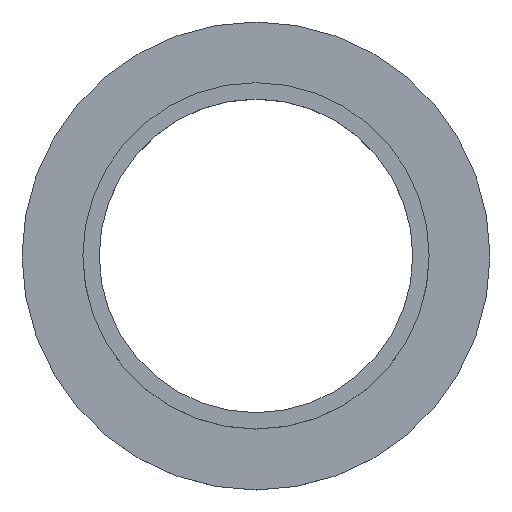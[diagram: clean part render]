
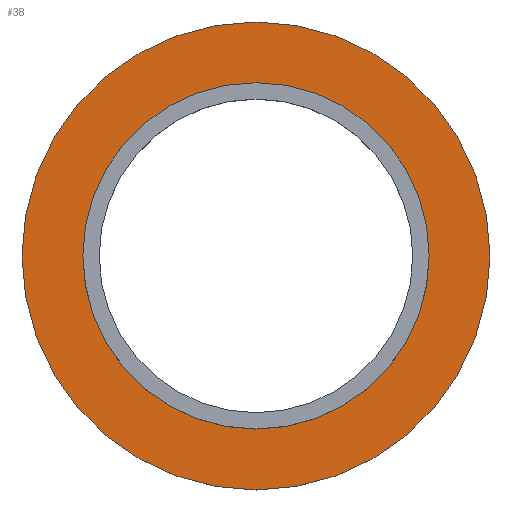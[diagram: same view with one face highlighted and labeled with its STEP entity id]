
A CAD part, top view. The second image highlights one B-rep face of the part: STEP entity #38.
In plain terms, the highlighted planar face has unit normal (0, 0, 1).
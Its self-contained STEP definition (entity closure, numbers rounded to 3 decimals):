
#8 = AXIS2_PLACEMENT_3D ( 'NONE', #251, #157, #158 ) ;
#13 = ORIENTED_EDGE ( 'NONE', *, *, #275, .F. ) ;
#14 = AXIS2_PLACEMENT_3D ( 'NONE', #31, #85, #63 ) ;
#17 = ORIENTED_EDGE ( 'NONE', *, *, #281, .F. ) ;
#23 = VERTEX_POINT ( 'NONE', #119 ) ;
#29 = CIRCLE ( 'NONE', #189, 7.4 ) ;
#31 = CARTESIAN_POINT ( 'NONE',  ( 0., 0., 0. ) ) ;
#38 = ADVANCED_FACE ( 'NONE', ( #170, #100 ), #270, .F. ) ;
#43 = ORIENTED_EDGE ( 'NONE', *, *, #151, .F. ) ;
#52 = AXIS2_PLACEMENT_3D ( 'NONE', #95, #226, #329 ) ;
#55 = DIRECTION ( 'NONE',  ( 1., 0., 0. ) ) ;
#63 = DIRECTION ( 'NONE',  ( -1., 0., 0. ) ) ;
#85 = DIRECTION ( 'NONE',  ( 0., 0., -1. ) ) ;
#88 = CARTESIAN_POINT ( 'NONE',  ( 7.4, 0., 0. ) ) ;
#95 = CARTESIAN_POINT ( 'NONE',  ( 0., 0., 0. ) ) ;
#100 = FACE_OUTER_BOUND ( 'NONE', #266, .T. ) ;
#118 = VERTEX_POINT ( 'NONE', #274 ) ;
#119 = CARTESIAN_POINT ( 'NONE',  ( -10., 0., 0. ) ) ;
#120 = CIRCLE ( 'NONE', #8, 10. ) ;
#130 = CARTESIAN_POINT ( 'NONE',  ( 10., 0., 0. ) ) ;
#151 = EDGE_CURVE ( 'NONE', #228, #118, #29, .T. ) ;
#154 = AXIS2_PLACEMENT_3D ( 'NONE', #231, #319, #232 ) ;
#157 = DIRECTION ( 'NONE',  ( 0., 0., -1. ) ) ;
#158 = DIRECTION ( 'NONE',  ( -1., 0., 0. ) ) ;
#170 = FACE_BOUND ( 'NONE', #203, .T. ) ;
#171 = ORIENTED_EDGE ( 'NONE', *, *, #303, .F. ) ;
#189 = AXIS2_PLACEMENT_3D ( 'NONE', #208, #248, #55 ) ;
#203 = EDGE_LOOP ( 'NONE', ( #17, #43 ) ) ;
#208 = CARTESIAN_POINT ( 'NONE',  ( 0., 0., 0. ) ) ;
#220 = VERTEX_POINT ( 'NONE', #130 ) ;
#226 = DIRECTION ( 'NONE',  ( 0., 0., -1. ) ) ;
#228 = VERTEX_POINT ( 'NONE', #88 ) ;
#231 = CARTESIAN_POINT ( 'NONE',  ( 0., 0., 0. ) ) ;
#232 = DIRECTION ( 'NONE',  ( 1., 0., 0. ) ) ;
#246 = CIRCLE ( 'NONE', #154, 7.4 ) ;
#248 = DIRECTION ( 'NONE',  ( 0., 0., 1. ) ) ;
#251 = CARTESIAN_POINT ( 'NONE',  ( 0., 0., 0. ) ) ;
#266 = EDGE_LOOP ( 'NONE', ( #171, #13 ) ) ;
#270 = PLANE ( 'NONE',  #52 ) ;
#274 = CARTESIAN_POINT ( 'NONE',  ( -7.4, 0., 0. ) ) ;
#275 = EDGE_CURVE ( 'NONE', #23, #220, #277, .T. ) ;
#277 = CIRCLE ( 'NONE', #14, 10. ) ;
#281 = EDGE_CURVE ( 'NONE', #118, #228, #246, .T. ) ;
#303 = EDGE_CURVE ( 'NONE', #220, #23, #120, .T. ) ;
#319 = DIRECTION ( 'NONE',  ( 0., 0., 1. ) ) ;
#329 = DIRECTION ( 'NONE',  ( -1., 0., 0. ) ) ;
